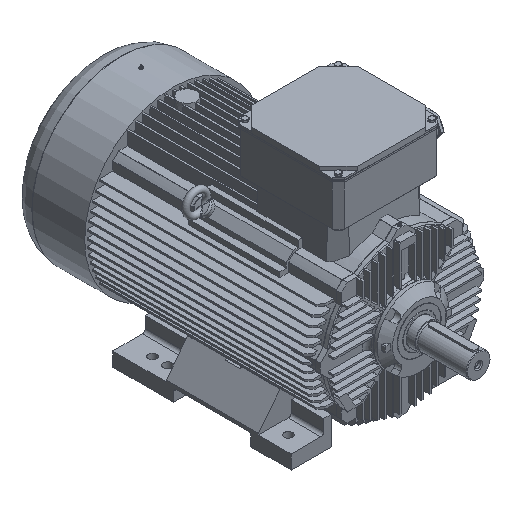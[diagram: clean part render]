
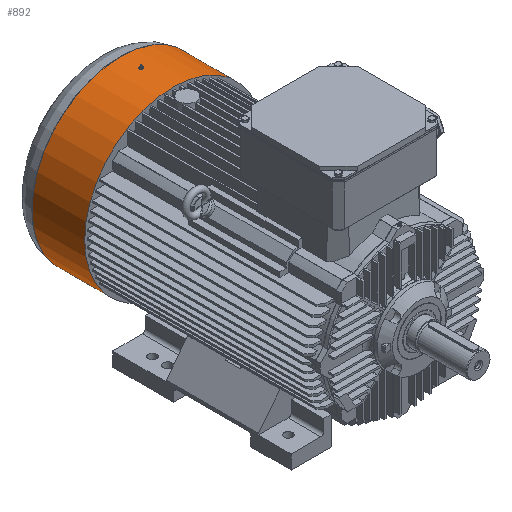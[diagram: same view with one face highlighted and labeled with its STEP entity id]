
A CAD part, isometric view. The second image highlights one B-rep face of the part: STEP entity #892.
In plain terms, the highlighted cylindrical face has radius 298 mm (diameter 596 mm), a full revolution.
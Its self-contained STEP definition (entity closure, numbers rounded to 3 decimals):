
#892 = ADVANCED_FACE( '', ( #3066, #3067 ), #3068, .T. );
#3066 = FACE_OUTER_BOUND( '', #6575, .T. );
#3067 = FACE_OUTER_BOUND( '', #6576, .T. );
#3068 = CYLINDRICAL_SURFACE( '', #6577, 298. );
#6575 = EDGE_LOOP( '', ( #16328 ) );
#6576 = EDGE_LOOP( '', ( #16329 ) );
#6577 = AXIS2_PLACEMENT_3D( '', #16330, #16331, #16332 );
#16328 = ORIENTED_EDGE( '', *, *, #25763, .F. );
#16329 = ORIENTED_EDGE( '', *, *, #25521, .F. );
#16330 = CARTESIAN_POINT( '', ( 0., 752.12, 0. ) );
#16331 = DIRECTION( '', ( 0., 1., 0. ) );
#16332 = DIRECTION( '', ( 0., 0., 1. ) );
#25521 = EDGE_CURVE( '', #30259, #30259, #30260, .T. );
#25763 = EDGE_CURVE( '', #30742, #30742, #30743, .F. );
#30259 = VERTEX_POINT( '', #38360 );
#30260 = CIRCLE( '', #38361, 298. );
#30742 = VERTEX_POINT( '', #39017 );
#30743 = CIRCLE( '', #39018, 298. );
#38360 = CARTESIAN_POINT( '', ( 0., 752.12, 298. ) );
#38361 = AXIS2_PLACEMENT_3D( '', #51603, #51604, #51605 );
#39017 = CARTESIAN_POINT( '', ( 298., 930., 0. ) );
#39018 = AXIS2_PLACEMENT_3D( '', #51981, #51982, #51983 );
#51603 = CARTESIAN_POINT( '', ( 0., 752.12, 0. ) );
#51604 = DIRECTION( '', ( 0., -1., 0. ) );
#51605 = DIRECTION( '', ( 0., 0., 1. ) );
#51981 = CARTESIAN_POINT( '', ( 0., 930., 0. ) );
#51982 = DIRECTION( '', ( 0., -1., 0. ) );
#51983 = DIRECTION( '', ( 1., 0., 0. ) );
